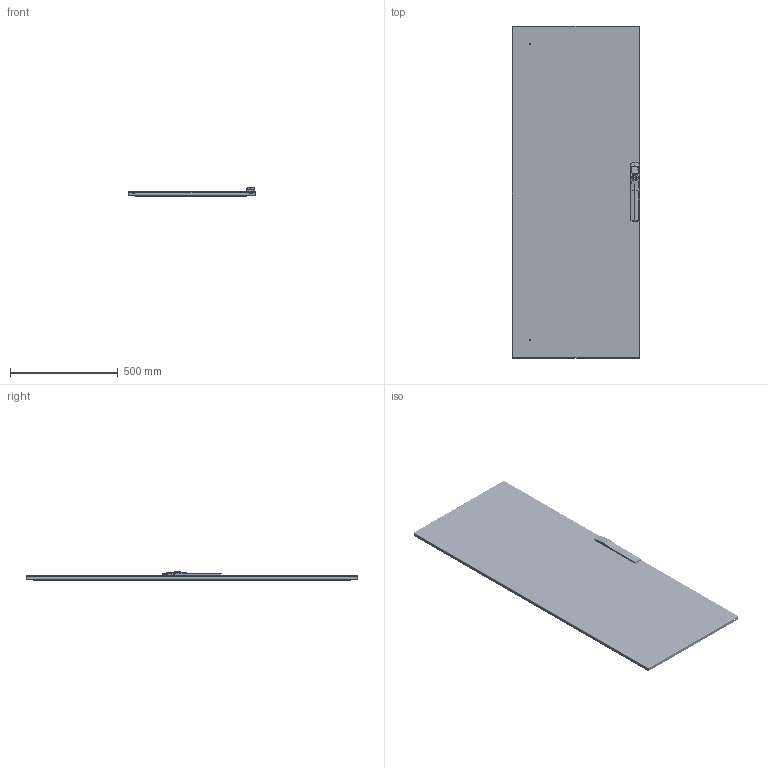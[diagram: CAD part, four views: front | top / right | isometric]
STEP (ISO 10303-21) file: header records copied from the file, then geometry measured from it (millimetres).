
FILE_DESCRIPTION (( 'STEP AP203' ), '1' );
FILE_NAME ('94880.step', '2013-03-05T09:31:03', ( '' ), ( '' ), 'SwSTEP 2.0', 'SolidWorks 2010', '' );
FILE_SCHEMA (( 'CONFIG_CONTROL_DESIGN' ));
Length unit declared in the file: inch
Products named in the file (33): 60100041_60100041; 87931527_87931527; 87931368_SLEEVE; 87920638_87920638; 60127172_60127172; 87939079_87939079; 20127257_20127257; 60127381_60127381; 60127141_60127141; 87547289_875472289; 60127222_60127224; 60127104_60127106; 60127175_60127175; 60127216_60127216; 60127140_60127140; 60127138_60127138; 87576035_87576035; 60127139_60127139; 11158132_THIKNESS .155 FIXED; 11158133_11581133; 60127256_60127256; 60127213_60127213; 60127182_60127182; 60127208; 60127207; 60127212; 60127277_60127277; 51232001_51232001; 60127173_60127173; 94880; 11458071_11458071; 87954620_87954620; 60127101_After Weld
Assembly tree (64 placements, depth 4):
  94880
    60127222_60127224
      11158132_THIKNESS .155 FIXED  x8
      11158133_11581133  x3
      60127216_60127216  x3
        87576035_87576035
        60127138_60127138
        60127140_60127140
      60127139_60127139  x4
      60127175_60127175  x2
      60127104_60127106
    11458071_11458071
      60127101_After Weld  x3
      87920638_87920638  x6
      60100041_60100041  x2
        87931527_87931527
        87931368_SLEEVE
      60127172_60127172  x3
      87954620_87954620
      87939079_87939079
    20127257_20127257
      87547289_875472289  x4
      60127141_60127141  x2
      60127381_60127381  x2
    60127277_60127277  x3
      60127173_60127173
      51232001_51232001
    60127256_60127256
      60127182_60127182
      60127208
      60127213_60127213
      60127212
      60127207
Bounding box: 591.79 x 1539.01 x 41.43 mm (x, y, z)
Volume: 2094799.8 mm3; surface area: 2966453.2 mm2
Topology: 64 solids, 64 shells, 5179 faces, 12764 edges, 7854 vertices
Faces by surface type: plane 2342, cylinder 1542, torus 798, cone 287, bspline 180, sphere 30
Entity records: 79016 total; most frequent: CARTESIAN_POINT 17172, DIRECTION 12343, ORIENTED_EDGE 11792, EDGE_CURVE 5896, AXIS2_PLACEMENT_3D 4699, VERTEX_POINT 3640, VECTOR 2945, LINE 2945
